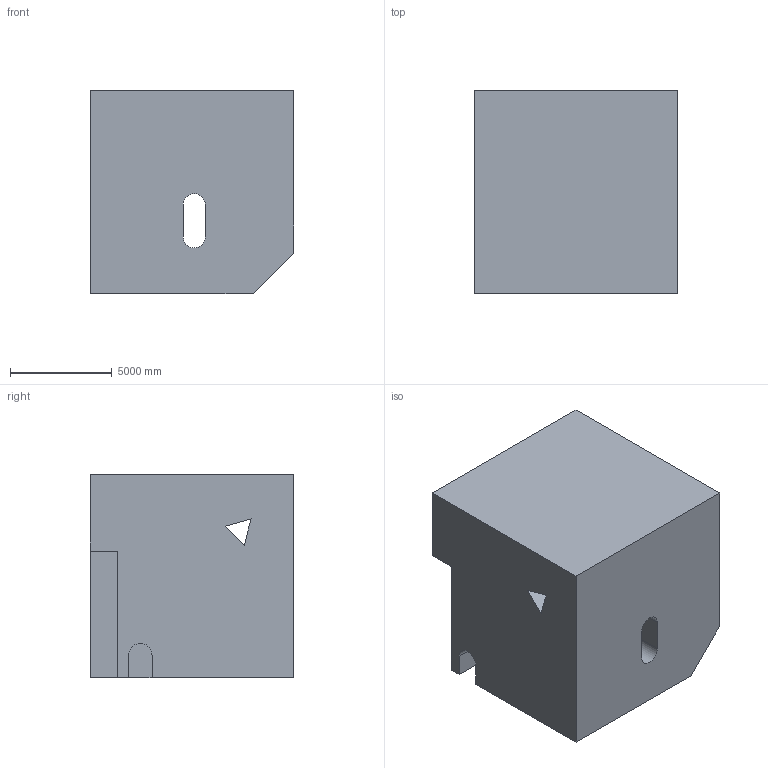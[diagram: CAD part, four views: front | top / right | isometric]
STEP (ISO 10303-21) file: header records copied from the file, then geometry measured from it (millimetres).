
FILE_DESCRIPTION (( 'STEP AP203' ), '1' );
FILE_NAME ('448.STEP', '2022-07-29T11:19:27', ( 'user' ), ( '' ), 'SwSTEP 2.0', 'SolidWorks 2021', '' );
FILE_SCHEMA (( 'CONFIG_CONTROL_DESIGN' ));
Length unit declared in the file: centimetre
Products named in the file (1): 448
Bounding box: 10000 x 10000 x 10000 mm (x, y, z)
Volume: 913899015331.7 mm3; surface area: 704339205.2 mm2
Topology: 1 solids, 1 shells, 23 faces, 63 edges, 42 vertices
Faces by surface type: plane 18, cylinder 5
Entity records: 812 total; most frequent: CARTESIAN_POINT 129, ORIENTED_EDGE 126, DIRECTION 121, EDGE_CURVE 63, VECTOR 53, LINE 53, VERTEX_POINT 42, AXIS2_PLACEMENT_3D 34
